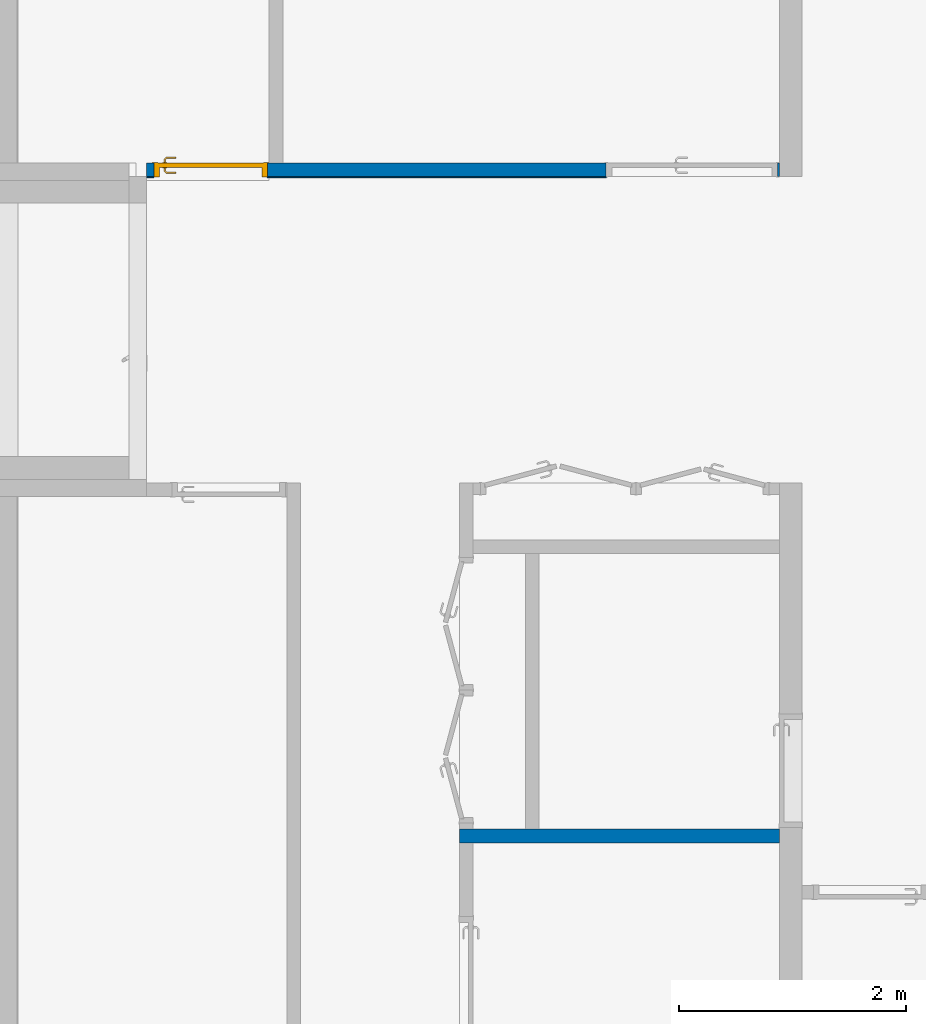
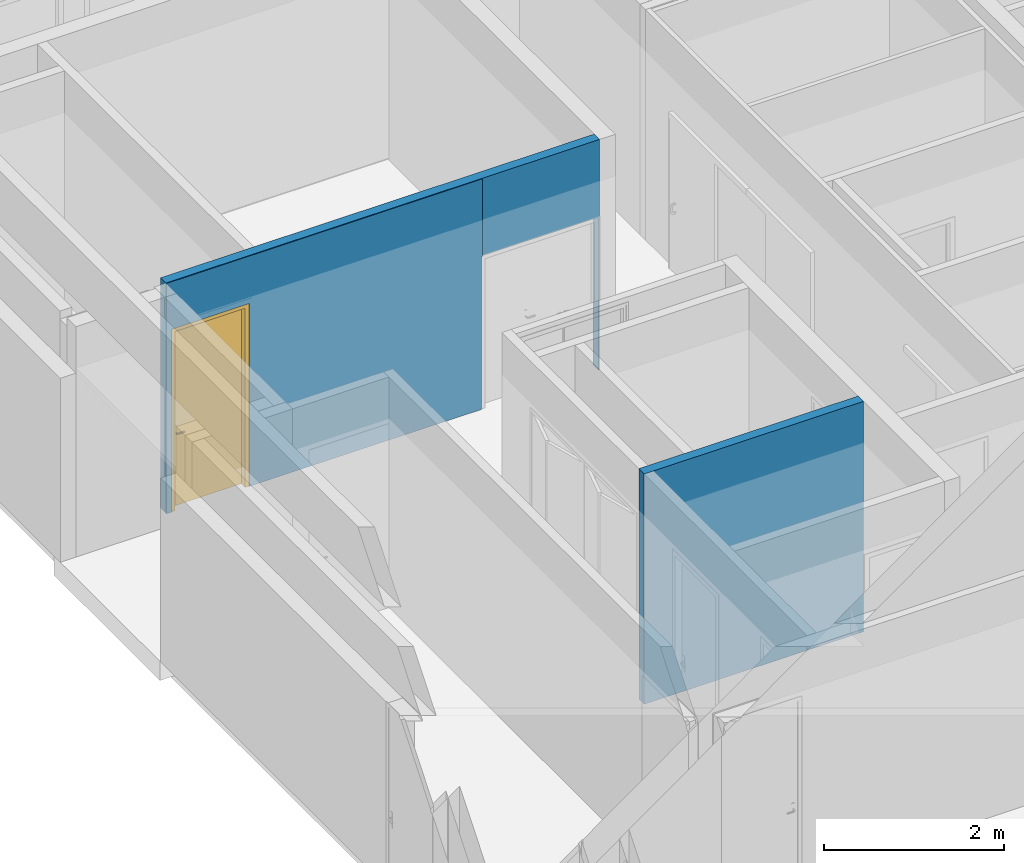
# One storey, part 96 of 240: 3 walls, 1 door, 4 openings.
"""IFC2X3 building model written with IfcOpenShell, lengths in centimetres."""

from ifc_helpers import new_model, entity, si_unit, converted_unit, derived_unit, direction, frame, frame_2d, origin, origin_2d_with_axis, place, context, subcontext, project, spatial, rectangle, extrude, faceted_brep, source, transform, mapped, material, material_list, layer, layer_set, layer_usage, type_object, type_shapes, element, fill, save


model = new_model("IFC2X3")

# Units and contexts
model_context = context("Model", 3, precision=0.001, world=origin(), true_north=direction((6.12303176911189e-17, 1.0)))
body_context = subcontext(model_context, "Body", "Model", "MODEL_VIEW")
ifc_project = project(units=[si_unit("LENGTHUNIT", "METRE", prefix="CENTI"), si_unit("AREAUNIT", "SQUARE_METRE"), si_unit("VOLUMEUNIT", "CUBIC_METRE"), converted_unit("PLANEANGLEUNIT", "DEGREE", entity("IfcRatioMeasure", 0.0174532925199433), si_unit("PLANEANGLEUNIT", "RADIAN"), dimensions=[0, 0, 0, 0, 0, 0, 0]), si_unit("MASSUNIT", "GRAM", prefix="KILO"), derived_unit("MASSDENSITYUNIT", [(si_unit("MASSUNIT", "GRAM", prefix="KILO"), 1), (si_unit("LENGTHUNIT", "METRE"), -3)]), si_unit("TIMEUNIT", "SECOND"), si_unit("FREQUENCYUNIT", "HERTZ"), si_unit("THERMODYNAMICTEMPERATUREUNIT", "DEGREE_CELSIUS"), derived_unit("THERMALTRANSMITTANCEUNIT", [(si_unit("MASSUNIT", "GRAM", prefix="KILO"), 1), (si_unit("THERMODYNAMICTEMPERATUREUNIT", "KELVIN"), -1), (si_unit("TIMEUNIT", "SECOND"), -3)]), derived_unit("VOLUMETRICFLOWRATEUNIT", [(si_unit("LENGTHUNIT", "METRE"), 3), (si_unit("TIMEUNIT", "SECOND"), -1)]), si_unit("ELECTRICCURRENTUNIT", "AMPERE"), si_unit("ELECTRICVOLTAGEUNIT", "VOLT"), si_unit("POWERUNIT", "WATT"), si_unit("FORCEUNIT", "NEWTON", prefix="KILO"), si_unit("ILLUMINANCEUNIT", "LUX"), si_unit("LUMINOUSFLUXUNIT", "LUMEN"), si_unit("LUMINOUSINTENSITYUNIT", "CANDELA"), derived_unit("USERDEFINED", [(si_unit("MASSUNIT", "GRAM", prefix="KILO"), -1), (si_unit("LENGTHUNIT", "METRE"), -2), (si_unit("TIMEUNIT", "SECOND"), 3), (si_unit("LUMINOUSFLUXUNIT", "LUMEN"), 1)]), derived_unit("LINEARVELOCITYUNIT", [(si_unit("LENGTHUNIT", "METRE"), 1), (si_unit("TIMEUNIT", "SECOND"), -1)]), si_unit("PRESSUREUNIT", "PASCAL"), derived_unit("USERDEFINED", [(si_unit("LENGTHUNIT", "METRE"), -2), (si_unit("MASSUNIT", "GRAM", prefix="KILO"), 1), (si_unit("TIMEUNIT", "SECOND"), -2)])], contexts=[model_context])

# Site, building, storey
site_placement = place(None, frame((-2781.94577612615, 7442.24238424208, 0.0)))
site = spatial("IfcSite", under=ifc_project, at=site_placement, Name="Default", CompositionType="ELEMENT")
building_placement = place(site_placement, origin())
building = spatial("IfcBuilding", under=site, at=building_placement, CompositionType="ELEMENT")
storey_placement = place(building_placement, origin())
storey = spatial("IfcBuildingStorey", under=building, at=storey_placement, Name="N00 - COO", CompositionType="ELEMENT", Elevation=0.0)

# Wall, openings, door
ifc_material_1 = material(Name="01 - Enduit/Plâtre")
ifc_layer_1 = layer(ifc_material_1, 1.0)
ifc_material_2 = material(Name="Maçonnerie - Béton")
ifc_layer_2 = layer(ifc_material_2, 10.0)
ifc_layer_3 = layer(ifc_material_1, 1.0)
ifc_layer_set_1 = layer_set([ifc_layer_1, ifc_layer_2, ifc_layer_3], Name="Mur de base:06 - cloisons - agglos10 + faïence 12cm")
ifc_layer_usage_1 = layer_usage(ifc_layer_set_1, "AXIS2", "NEGATIVE", 6.0)
wall_type_1 = type_object("IfcWallType", Name="Mur de base:06 - cloisons - agglos10 + faïence 12cm", PredefinedType="STANDARD", material=ifc_layer_set_1)
wall_1_placement = place(building_placement, frame((-10752.3130476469, -2397.07903364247, 0.0)))
wall_1 = element("IfcWallStandardCase", 1, at=wall_1_placement, inside=storey, type_object=wall_type_1, material=ifc_layer_usage_1, Name="Mur de base:06 - cloisons - agglos10 + faïence 12cm", ObjectType="Mur de base:06 - cloisons - agglos10 + faïence 12cm", context=body_context, shape_type="SweptSolid", body=[
    extrude(rectangle(XDim=557.478497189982, YDim=11.9999999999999, at=frame_2d((278.739248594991, -3.77475828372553e-14), x_axis=(-1.0, 0.0))), origin(), (0.0, 0.0, 1.0), 313.0),
])
opening_1_placement = place(wall_1_placement, frame((404.978497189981, -6.0, 0.0)))
element("IfcOpeningElement", 2, at=opening_1_placement, cuts=wall_1, Name="Int. Tierce:PP (1.44m x 2.04m):1", ObjectType="Opening", context=body_context, shape_type="SweptSolid", body=[
    extrude(rectangle(XDim=207.500000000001, YDim=151.0, at=frame_2d((103.750000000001, 75.5000000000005), x_axis=(1.0, 0.0))), frame((0.0, 0.0, 0.0), z_axis=(0.0, 1.0, 0.0), x_axis=(0.0, 0.0, 1.0)), (0.0, 0.0, 1.0), 12.0),
])
opening_2_placement = place(wall_1_placement, frame((6.49999999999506, -6.0, 0.0)))
opening_2 = element("IfcOpeningElement", 3, at=opening_2_placement, cuts=wall_1, Name="Int. Simple:PP simple (0.93m x 2.50m):1", ObjectType="Opening", context=body_context, shape_type="SweptSolid", body=[
    extrude(rectangle(XDim=248.500000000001, YDim=99.9999999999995, at=frame_2d((124.250000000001, 49.9999999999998), x_axis=(1.0, 0.0))), frame((0.0, 0.0, 0.0), z_axis=(0.0, 1.0, 0.0), x_axis=(0.0, 0.0, 1.0)), (0.0, 0.0, 1.0), 12.0),
])
ifc_material_3 = material(Name="Finition Peinture - Blanc satiné")
ifc_material_4 = material(Name="Bois - Panneau de porte")
ifc_material_5 = material(Name="Bois - Cadre de porte")
ifc_material_list_1 = material_list([ifc_material_3, ifc_material_4, ifc_material_5])
ifc_material_list_2 = material_list([ifc_material_3, ifc_material_4, ifc_material_5])
door_style = type_object("IfcDoorStyle", Name="PP simple (0.93m x 2.50m)", ConstructionType="NOTDEFINED", OperationType="SINGLE_SWING_RIGHT", ParameterTakesPrecedence=False, Sizeable=False, material=ifc_material_list_2)
shared_shape = source(origin(), body_context, "Body", "Brep", [
    faceted_brep([(99.5000000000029, -0.500000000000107, 87.0), (99.5000000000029, -0.500000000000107, 108.0), (98.535276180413, -0.500000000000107, 108.399601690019), (97.5000000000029, -0.500000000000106, 108.535898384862), (96.4647238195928, -0.500000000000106, 108.399601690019), (95.500000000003, -0.500000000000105, 108.0), (95.5000000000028, -0.500000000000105, 87.0), (96.4647238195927, -0.500000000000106, 86.6003983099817), (97.5000000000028, -0.500000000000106, 86.464101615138), (98.5352761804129, -0.500000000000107, 86.6003983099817), (99.5000000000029, 0.0, 108.0), (99.5000000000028, 0.0, 87.0), (98.5352761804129, 0.0, 86.6003983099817), (97.5000000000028, 0.0, 86.464101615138), (96.4647238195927, 0.0, 86.6003983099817), (95.5000000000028, 0.0, 87.0), (95.5000000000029, 0.0, 108.0), (96.4647238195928, 0.0, 108.399601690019), (97.5000000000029, 0.0, 108.535898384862), (98.535276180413, 0.0, 108.399601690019)], [[[0, 1, 2, 3, 4, 5, 6, 7, 8, 9]], [[10, 11, 12, 13, 14, 15, 16, 17, 18, 19]], [[9, 12, 11, 0]], [[8, 13, 12, 9]], [[7, 14, 13, 8]], [[7, 6, 15, 14]], [[15, 6, 5, 16]], [[4, 17, 16, 5]], [[3, 18, 17, 4]], [[2, 19, 18, 3]], [[2, 1, 10, 19]], [[11, 10, 1, 0]]]),
    faceted_brep([(99.5000000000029, 4.0, 87.0), (99.5000000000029, 4.0, 108.0), (98.535276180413, 4.0, 108.399601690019), (97.5000000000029, 4.0, 108.535898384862), (96.4647238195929, 4.0, 108.399601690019), (95.500000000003, 4.0, 108.0), (95.5000000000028, 4.0, 87.0), (96.4647238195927, 4.0, 86.6003983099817), (97.5000000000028, 4.0, 86.464101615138), (98.5352761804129, 4.0, 86.6003983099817), (97.5000000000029, 4.49999999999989, 108.535898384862), (98.535276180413, 4.49999999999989, 108.399601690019), (99.5000000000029, 4.49999999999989, 108.0), (99.5000000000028, 4.49999999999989, 87.0), (98.5352761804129, 4.49999999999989, 86.6003983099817), (97.5000000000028, 4.49999999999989, 86.464101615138), (96.4647238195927, 4.49999999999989, 86.6003983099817), (95.5000000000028, 4.49999999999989, 87.0), (95.500000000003, 4.49999999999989, 108.0), (96.4647238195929, 4.49999999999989, 108.399601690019)], [[[0, 1, 2, 3, 4, 5, 6, 7, 8, 9]], [[10, 11, 12, 13, 14, 15, 16, 17, 18, 19]], [[4, 19, 18, 5]], [[3, 10, 19, 4]], [[2, 11, 10, 3]], [[2, 1, 12, 11]], [[13, 12, 1, 0]], [[9, 14, 13, 0]], [[8, 15, 14, 9]], [[7, 16, 15, 8]], [[7, 6, 17, 16]], [[17, 6, 5, 18]]]),
    faceted_brep([(97.2974701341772, -0.500000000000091, 100.778044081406), (97.7025298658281, -0.500000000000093, 100.778044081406), (98.1000000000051, -0.500000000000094, 100.699999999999), (98.100000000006, -0.500000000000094, 99.2999999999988), (97.7025298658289, -0.500000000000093, 99.221955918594), (97.297470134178, -0.500000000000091, 99.2219559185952), (96.9000000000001, -0.500000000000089, 99.3000000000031), (96.9000000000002, -0.500000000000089, 100.7), (97.7025298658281, -3.10045754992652, 100.778044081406), (98.1000000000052, -3.26509507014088, 100.7), (97.2974701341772, -2.93267631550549, 100.778044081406), (95.9298602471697, -4.30028620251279, 100.778044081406), (96.0976414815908, -4.70534593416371, 100.778044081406), (96.9000000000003, -2.76803879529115, 100.7), (96.9000000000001, -2.76803879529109, 99.3000000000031), (97.297470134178, -2.93267631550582, 99.2219559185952), (97.7025298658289, -3.10045754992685, 99.221955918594), (96.0976414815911, -4.7053459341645, 99.221955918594), (95.9298602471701, -4.30028620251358, 99.2219559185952), (98.100000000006, -3.26509507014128, 99.2999999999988), (96.2622790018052, -5.10281606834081, 100.7), (95.7652227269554, -3.90281606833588, 100.7), (95.7652227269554, -3.90281606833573, 99.3000000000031), (96.2622790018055, -5.10281606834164, 99.2999999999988), (87.4981359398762, -5.10281606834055, 100.7), (87.4981359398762, -4.70534593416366, 100.778044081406), (87.4981359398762, -4.30028620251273, 100.778044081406), (87.4981359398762, -3.90281606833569, 100.699999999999), (87.4981359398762, -3.90281606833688, 99.3000000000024), (87.4981359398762, -4.30028620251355, 99.2219559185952), (87.4981359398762, -4.70534593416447, 99.221955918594), (87.4981359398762, -5.10281606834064, 99.2999999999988), (91.7139980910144, -4.5028160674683, 100.78786867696), (92.2692302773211, -5.1028160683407, 100.7), (91.6316793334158, -3.9028160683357, 100.7), (91.631679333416, -3.9028160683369, 99.3000000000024), (91.7139981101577, -4.50281607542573, 99.2121313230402), (92.2692310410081, -5.10281606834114, 99.2999999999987)], [[[0, 1, 2, 3, 4, 5, 6, 7]], [[2, 1, 8, 9]], [[1, 0, 10, 11, 12, 8]], [[0, 7, 13, 10]], [[14, 13, 7, 6]], [[5, 15, 14, 6]], [[5, 4, 16, 17, 18, 15]], [[3, 19, 16, 4]], [[9, 19, 3, 2]], [[9, 8, 12, 20]], [[10, 13, 21, 11]], [[22, 21, 13, 14]], [[14, 15, 18, 22]], [[16, 19, 23, 17]], [[20, 23, 19, 9]], [[24, 25, 26, 27, 28, 29, 30, 31]], [[32, 25, 33]], [[33, 25, 24]], [[33, 20, 12]], [[11, 34, 32]], [[34, 11, 21]], [[27, 26, 34]], [[32, 26, 25]], [[32, 34, 26]], [[32, 33, 12]], [[11, 32, 12]], [[21, 22, 35, 28, 27, 34]], [[36, 29, 35]], [[30, 36, 37]], [[18, 35, 22]], [[29, 28, 35]], [[30, 37, 31]], [[37, 17, 23]], [[36, 17, 37]], [[36, 18, 17]], [[36, 35, 18]], [[29, 36, 30]], [[23, 20, 33, 24, 31, 37]]]),
    faceted_brep([(97.2974701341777, 4.49999999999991, 99.2219559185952), (97.7025298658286, 4.49999999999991, 99.221955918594), (98.1000000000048, 4.4999999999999, 99.2999999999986), (98.1000000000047, 4.4999999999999, 100.7), (97.7025298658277, 4.49999999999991, 100.778044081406), (97.2974701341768, 4.49999999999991, 100.778044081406), (96.8999999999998, 4.49999999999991, 100.7), (96.900000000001, 4.49999999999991, 99.3000000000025), (96.8999999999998, 6.7485204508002, 100.7), (96.8999999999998, 6.74852045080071, 99.3000000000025), (97.2974701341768, 6.91315797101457, 100.778044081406), (97.7025298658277, 7.0809392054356, 100.778044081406), (96.0838906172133, 8.69957845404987, 100.778044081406), (95.9161093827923, 8.29451872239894, 100.778044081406), (98.1000000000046, 7.24557672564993, 100.7), (98.1000000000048, 7.24557672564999, 99.2999999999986), (97.7025298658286, 7.08093920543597, 99.221955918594), (97.2974701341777, 6.91315797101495, 99.2219559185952), (95.9161093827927, 8.29451872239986, 99.2219559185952), (96.0838906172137, 8.69957845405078, 99.221955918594), (95.751471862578, 7.89704858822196, 100.7), (95.7514718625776, 7.89704858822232, 99.3000000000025), (96.2485281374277, 9.09704858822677, 100.7), (96.2485281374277, 9.09704858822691, 99.2999999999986), (87.4954216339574, 8.29451872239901, 100.778044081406), (87.4954216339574, 8.69957845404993, 100.778044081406), (87.4954216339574, 9.09704858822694, 100.7), (87.4954216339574, 9.09704858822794, 99.2999999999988), (87.4954216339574, 8.6995784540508, 99.221955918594), (87.4954216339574, 8.29451872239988, 99.2219559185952), (87.4954216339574, 7.89704858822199, 99.3000000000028), (87.4954216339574, 7.89704858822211, 100.7), (91.6234467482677, 7.89704858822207, 100.7), (91.6234479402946, 7.89704858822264, 99.3000000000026), (91.7057655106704, 8.49704858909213, 100.78786867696), (92.255479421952, 9.09704858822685, 100.7), (92.2554795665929, 9.09704858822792, 99.2999999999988), (91.7057654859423, 8.49704858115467, 99.2121313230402)], [[[0, 1, 2, 3, 4, 5, 6, 7]], [[8, 9, 7, 6]], [[5, 10, 8, 6]], [[5, 4, 11, 12, 13, 10]], [[3, 14, 11, 4]], [[14, 3, 2, 15]], [[2, 1, 16, 15]], [[1, 0, 17, 18, 19, 16]], [[0, 7, 9, 17]], [[20, 21, 9, 8]], [[8, 10, 13, 20]], [[14, 22, 12, 11]], [[23, 22, 14, 15]], [[15, 16, 19, 23]], [[17, 9, 21, 18]], [[24, 25, 26, 27, 28, 29, 30, 31]], [[21, 20, 32, 31, 30, 33]], [[34, 24, 32]], [[25, 34, 35]], [[13, 32, 20]], [[24, 31, 32]], [[25, 35, 26]], [[35, 12, 22]], [[34, 12, 35]], [[34, 13, 12]], [[34, 32, 13]], [[24, 34, 25]], [[22, 23, 36, 27, 26, 35]], [[37, 28, 36]], [[36, 28, 27]], [[36, 23, 19]], [[18, 33, 37]], [[33, 18, 21]], [[30, 29, 33]], [[37, 29, 28]], [[37, 33, 29]], [[37, 36, 19]], [[18, 37, 19]]]),
    faceted_brep([(103.500000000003, 4.0, 245.0), (103.500000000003, 4.0, 0.0), (10.5000000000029, 4.0, 0.0), (10.5000000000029, 4.0, 245.0), (103.500000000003, 0.0, 245.0), (10.5000000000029, 0.0, 245.0), (10.5000000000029, 0.0, 0.0), (103.500000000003, 0.0, 0.0)], [[[0, 1, 2, 3]], [[4, 5, 6, 7]], [[3, 5, 4, 0]], [[2, 6, 5, 3]], [[1, 7, 6, 2]], [[0, 4, 7, 1]]]),
    faceted_brep([(107.0, 12.0, 0.0), (107.0, 0.0, 0.0), (108.500000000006, 0.0, 0.0), (108.500000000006, -0.500000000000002, 0.0), (103.500000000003, -0.500000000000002, 0.0), (103.500000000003, 4.0, 0.0), (102.0, 4.0, 0.0), (102.0, 12.5000000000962, 0.0), (108.500000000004, 12.5000000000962, 0.0), (108.500000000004, 12.0, 0.0), (107.0, 12.0, 248.500000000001), (107.0, 0.0, 248.500000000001), (108.500000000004, 12.0, 250.0), (5.50000000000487, 12.0, 250.0), (5.50000000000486, 12.0, 0.0), (7.0, 12.0, 0.0), (7.0, 12.0, 248.500000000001), (102.0, 4.0, 243.5), (102.0, 12.5000000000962, 243.5), (103.500000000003, 4.0, 245.0), (10.5000000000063, 4.0, 245.0), (10.5000000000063, 4.0, 0.0), (12.0, 4.0, 0.0), (12.0, 4.0, 243.5), (7.0, 0.0, 0.0), (7.0, 0.0, 248.500000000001), (5.50000000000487, 12.5000000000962, 0.0), (12.0, 12.5000000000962, 0.0), (10.5000000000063, -0.500000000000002, 0.0), (5.5000000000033, -0.500000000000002, 0.0), (5.5000000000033, 0.0, 0.0), (12.0, 12.5000000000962, 243.5), (103.500000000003, -0.500000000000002, 245.0), (108.500000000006, -0.500000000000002, 250.0), (5.5000000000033, -0.500000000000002, 250.0), (10.5000000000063, -0.500000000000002, 245.0), (108.500000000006, 0.0, 250.0), (5.50000000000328, 0.0, 250.0), (108.500000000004, 12.5000000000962, 250.0), (5.50000000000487, 12.5000000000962, 250.0)], [[[0, 1, 2, 3, 4, 5, 6, 7, 8, 9]], [[0, 10, 11, 1]], [[9, 12, 13, 14, 15, 16, 10, 0]], [[7, 6, 17, 18]], [[5, 19, 20, 21, 22, 23, 17, 6]], [[16, 15, 24, 25]], [[15, 14, 26, 27, 22, 21, 28, 29, 30, 24]], [[23, 22, 27, 31]], [[10, 16, 25, 11]], [[17, 23, 31, 18]], [[5, 4, 32, 19]], [[3, 33, 34, 29, 28, 35, 32, 4]], [[2, 36, 33, 3]], [[1, 11, 25, 24, 30, 37, 36, 2]], [[8, 38, 12, 9]], [[7, 18, 31, 27, 26, 39, 38, 8]], [[35, 28, 21, 20]], [[37, 30, 29, 34]], [[39, 26, 14, 13]], [[32, 35, 20, 19]], [[36, 37, 34, 33]], [[38, 39, 13, 12]]]),
])
type_shapes(door_style, [shared_shape])
door_placement = place(opening_2_placement, frame((107.0, 12.0, 0.0), z_axis=(0.0, 0.0, 1.0), x_axis=(-1.0, 0.0, 0.0)))
door = element("IfcDoor", 4, at=door_placement, inside=storey, type_object=door_style, material=ifc_material_list_1, Name="Int. Simple:PP simple (0.93m x 2.50m)", ObjectType="Int. Simple:PP simple (0.93m x 2.50m)", OverallHeight=248.500000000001, OverallWidth=99.9999999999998, context=body_context, shape_type="MappedRepresentation", body=[
    mapped(shared_shape, transform((0.0, 0.0, 0.0), scale=1.0)),
])
fill(opening_2, door)

# Wall
ifc_layer_usage_2 = layer_usage(ifc_layer_set_1, "AXIS2", "NEGATIVE", 6.0)
wall_2_placement = place(building_placement, frame((-10476.6130476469, -2984.07903364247, 0.0)))
element("IfcWallStandardCase", 5, at=wall_2_placement, inside=storey, type_object=wall_type_1, material=ifc_layer_usage_2, Name="Mur de base:06 - cloisons - agglos10 + faïence 12cm", ObjectType="Mur de base:06 - cloisons - agglos10 + faïence 12cm", context=body_context, shape_type="SweptSolid", body=[
    extrude(rectangle(XDim=281.778497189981, YDim=11.9999999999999, at=frame_2d((140.889248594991, -1.18571819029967e-13), x_axis=(-1.0, 0.0))), origin(), (0.0, 0.0, 1.0), 313.0),
])

# Wall, openings
ifc_material_6 = material(Name="01 - Faïence sanitaires")
ifc_layer_4 = layer(ifc_material_6, 1.0)
ifc_layer_set_2 = layer_set([ifc_layer_4], Name="Mur de base:04 - Parement - faïence 1cm")
ifc_layer_usage_3 = layer_usage(ifc_layer_set_2, "AXIS2", "NEGATIVE", 0.5)
wall_type_2 = type_object("IfcWallType", Name="Mur de base:04 - Parement - faïence 1cm", PredefinedType="STANDARD", material=ifc_layer_set_2)
wall_3_placement = place(building_placement, frame((-10752.3130476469, -2403.57903364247, 0.0)))
wall_3 = element("IfcWallStandardCase", 6, at=wall_3_placement, inside=storey, type_object=wall_type_2, material=ifc_layer_usage_3, Name="Mur de base:04 - Parement - faïence 1cm", ObjectType="Mur de base:04 - Parement - faïence 1cm", context=body_context, shape_type="SweptSolid", body=[
    extrude(rectangle(XDim=406.0, YDim=0.999999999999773, at=frame_2d((203.0, 1.0547118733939e-15), x_axis=(-1.0, 0.0))), origin(), (0.0, 0.0, 1.0), 313.0),
])
opening_3_placement = place(wall_3_placement, origin())
element("IfcOpeningElement", 7, at=opening_3_placement, cuts=wall_3, Name="Mur de base:04 - Parement - faïence 1cm", ObjectType="Opening", context=body_context, shape_type="SweptSolid", body=[
    extrude(rectangle(XDim=207.500000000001, YDim=151.0, at=origin_2d_with_axis()), frame((480.478497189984, -139.900000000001, 103.750000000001), z_axis=(0.0, 1.0, 0.0), x_axis=(0.0, 0.0, 1.0)), (0.0, 0.0, 1.0), 304.8),
])
opening_4_placement = place(wall_3_placement, origin())
element("IfcOpeningElement", 8, at=opening_4_placement, cuts=wall_3, Name="Mur de base:04 - Parement - faïence 1cm", ObjectType="Opening", context=body_context, shape_type="SweptSolid", body=[
    extrude(rectangle(XDim=248.500000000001, YDim=99.9999999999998, at=frame_2d((-8.66862137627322e-13, 0.0), x_axis=(0.0, 1.0))), frame((56.4999999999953, -139.9, 124.250000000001), z_axis=(0.0, 1.0, 0.0), x_axis=(-1.0, 0.0, 0.0)), (0.0, 0.0, 1.0), 304.8),
])

save(model, "model.ifc")
